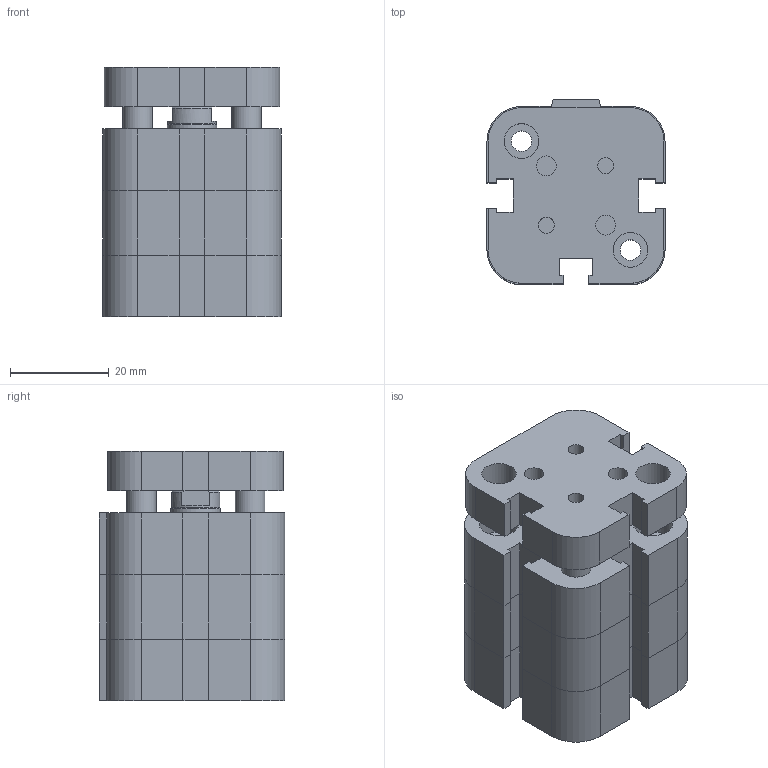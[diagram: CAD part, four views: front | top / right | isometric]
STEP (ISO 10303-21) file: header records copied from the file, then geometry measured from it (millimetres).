
FILE_DESCRIPTION((''),'2;1');
FILE_NAME('I:\Area Tecnica\Disegni\VARIE-3D\Componenti\EUROPE\15##_###_####_07_#\1581_20_0000_07_1.iam.stp','2009-04-20T15:19:34',(''),(''),'Autodesk Inventor 2009','Autodesk Inventor 2009','');
FILE_SCHEMA(('AUTOMOTIVE_DESIGN { 1 0 10303 214 1 1 1 1 }'));
Length unit declared in the file: millimetre
Products named in the file (3): 1581_20_0000_07_1; 1581_20_0000_07_1_C; 1561_20_0000_07_1_SA
Assembly tree (2 placements, depth 2):
  1581_20_0000_07_1
    1581_20_0000_07_1_C
    1561_20_0000_07_1_SA
Bounding box: 36 x 37.5 x 50.5 mm (x, y, z)
Volume: 50356.4 mm3; surface area: 17818.5 mm2
Topology: 2 solids, 2 shells, 200 faces, 475 edges, 295 vertices
Faces by surface type: plane 135, bspline 38, cylinder 21, cone 6
Full cylindrical faces by diameter (mm): 6 x2, 9.8 x2, 10 x1
Entity records: 5931 total; most frequent: CARTESIAN_POINT 1345, ORIENTED_EDGE 868, DIRECTION 846, EDGE_CURVE 434, VECTOR 340, LINE 340, VERTEX_POINT 282, EDGE_LOOP 260
